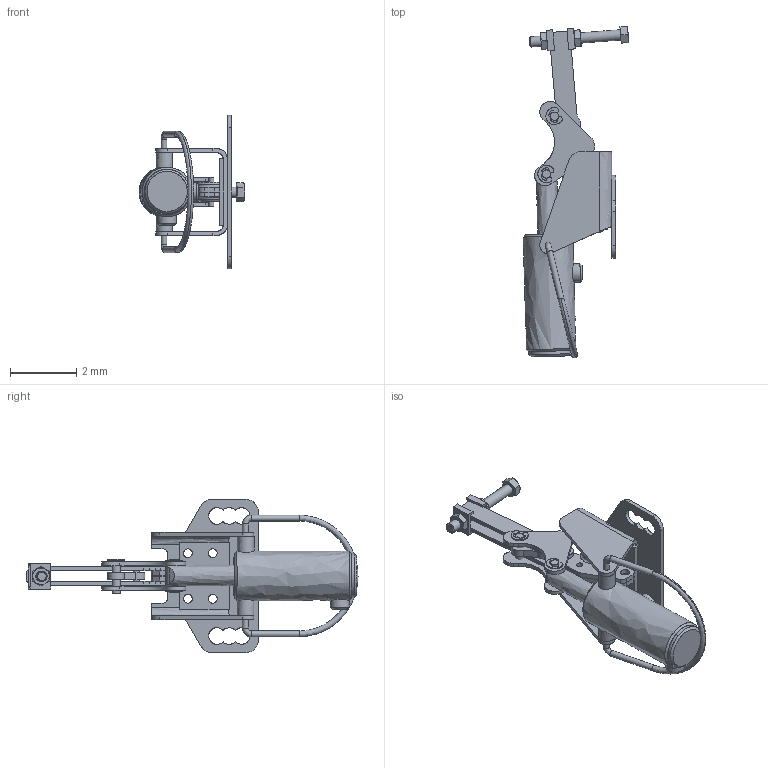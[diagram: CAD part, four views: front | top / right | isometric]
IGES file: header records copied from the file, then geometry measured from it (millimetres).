
Start section:  Autodesk DirectConnect version 7.0.27.0 ---- IGES version 5.3
Global section: file name: C:\Users\Nick\Desktop\AOV-201-FM\3D\AOV-201-FM Open.igs; native system: Autodesk DirectConnect 7.0.27.0; preprocessor: 7.0.27.0; author: Nick; organization: Unknown; date: 20150522.134355; units: millimetre
Bounding box: 3.19 x 10.02 x 4.62 mm (x, y, z)
Surface area: 163 mm2 (no closed solid volume)
Topology: 0 solids, 0 shells, 472 faces, 3667 edges, 3652 vertices
Faces by surface type: bspline 472
